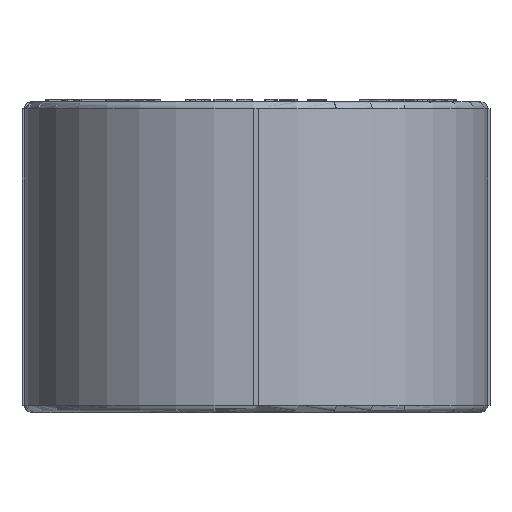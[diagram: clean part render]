
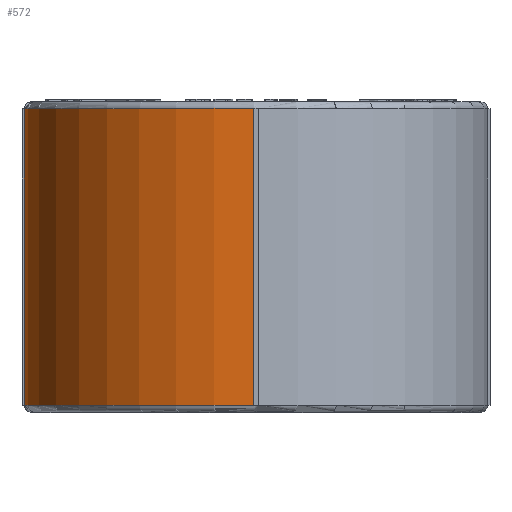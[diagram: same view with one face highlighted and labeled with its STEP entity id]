
A CAD part, top view. The second image highlights one B-rep face of the part: STEP entity #572.
In plain terms, the highlighted cylindrical face has radius 50 mm (diameter 100 mm), a partial arc.
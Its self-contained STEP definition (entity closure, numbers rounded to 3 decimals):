
#572=ADVANCED_FACE('',(#3994),#3996,.T.);
#3994=FACE_BOUND('',#3995,.T.);
#3995=EDGE_LOOP('',(#8091,#8092,#8093,#8094));
#3996=CYLINDRICAL_SURFACE('',#3997,50.);
#3997=AXIS2_PLACEMENT_3D('',#3998,#3999,#4000);
#3998=CARTESIAN_POINT('',(0.,-33.5,0.));
#3999=DIRECTION('',(0.,1.,0.));
#4000=DIRECTION('',(-1.,0.,0.));
#8091=ORIENTED_EDGE('',*,*,#9686,.F.);
#8092=ORIENTED_EDGE('',*,*,#9687,.T.);
#8093=ORIENTED_EDGE('',*,*,#9688,.F.);
#8094=ORIENTED_EDGE('',*,*,#9682,.F.);
#9682=EDGE_CURVE('',#12192,#12194,#12195,.T.);
#9686=EDGE_CURVE('',#12201,#12192,#12202,.T.);
#9687=EDGE_CURVE('',#12201,#12203,#12204,.T.);
#9688=EDGE_CURVE('',#12194,#12203,#12205,.F.);
#12192=VERTEX_POINT('',#17682);
#12194=VERTEX_POINT('',#17687);
#12195=CIRCLE('',#17688,50.);
#12201=VERTEX_POINT('',#17706);
#12202=LINE('',#17707,#17708);
#12203=VERTEX_POINT('',#17710);
#12204=CIRCLE('',#17711,50.);
#12205=LINE('',#17715,#17716);
#17682=CARTESIAN_POINT('',(-49.997,32.,0.5));
#17687=CARTESIAN_POINT('',(-0.5,32.,49.997));
#17688=AXIS2_PLACEMENT_3D('',#17689,#17690,#17691);
#17689=CARTESIAN_POINT('',(0.,32.,0.));
#17690=DIRECTION('',(0.,1.,0.));
#17691=DIRECTION('',(-1.,0.,0.01));
#17706=CARTESIAN_POINT('',(-49.997,-32.,0.5));
#17707=CARTESIAN_POINT('',(-49.997,-32.,0.5));
#17708=VECTOR('',#17709,1.);
#17709=DIRECTION('',(0.,1.,0.));
#17710=CARTESIAN_POINT('',(-0.5,-32.,49.997));
#17711=AXIS2_PLACEMENT_3D('',#17712,#17713,#17714);
#17712=CARTESIAN_POINT('',(0.,-32.,0.));
#17713=DIRECTION('',(0.,1.,0.));
#17714=DIRECTION('',(-1.,0.,0.01));
#17715=CARTESIAN_POINT('',(-0.5,-32.,49.997));
#17716=VECTOR('',#17717,1.);
#17717=DIRECTION('',(0.,1.,0.));
